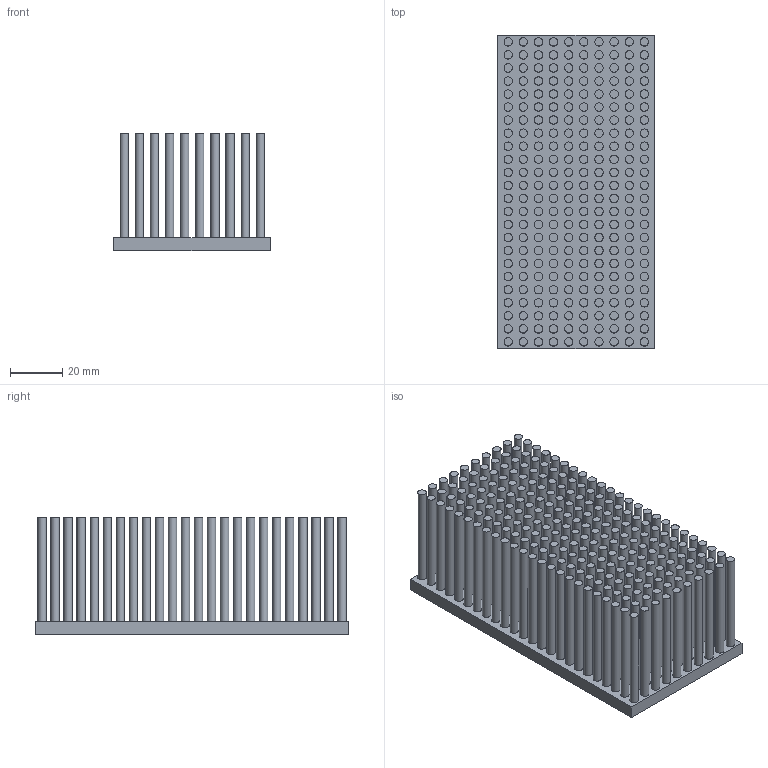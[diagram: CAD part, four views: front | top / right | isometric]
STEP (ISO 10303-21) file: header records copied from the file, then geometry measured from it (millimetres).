
FILE_DESCRIPTION(/* description */ (''),/* implementation_level */ '2;1');
FILE_NAME(/* name */ 'PB12060-B5-H45-P240.stp',/* time_stamp */ '2013-12-30T14:34:47+08:00',/* author */ (''),/* organization */ (''),/* preprocessor_version */ 'ST-DEVELOPER v14',/* originating_system */ 'SIEMENS PLM Software NX 8.0',/* authorisation */ '');
FILE_SCHEMA (('CONFIG_CONTROL_DESIGN'));
Length unit declared in the file: millimetre
Products named in the file (1): PB12060-P240
Bounding box: 60 x 120 x 45 mm (x, y, z)
Volume: 113207.8 mm3; surface area: 112709.7 mm2
Topology: 1 solids, 1 shells, 486 faces, 732 edges, 488 vertices
Faces by surface type: plane 246, cylinder 240
Full cylindrical faces by diameter (mm): 3.2 x240
Entity records: 9840 total; most frequent: DIRECTION 1946, CARTESIAN_POINT 1467, ORIENTED_EDGE 984, AXIS2_PLACEMENT_3D 967, EDGE_LOOP 966, FACE_BOUND 721, EDGE_CURVE 492, VERTEX_POINT 488
